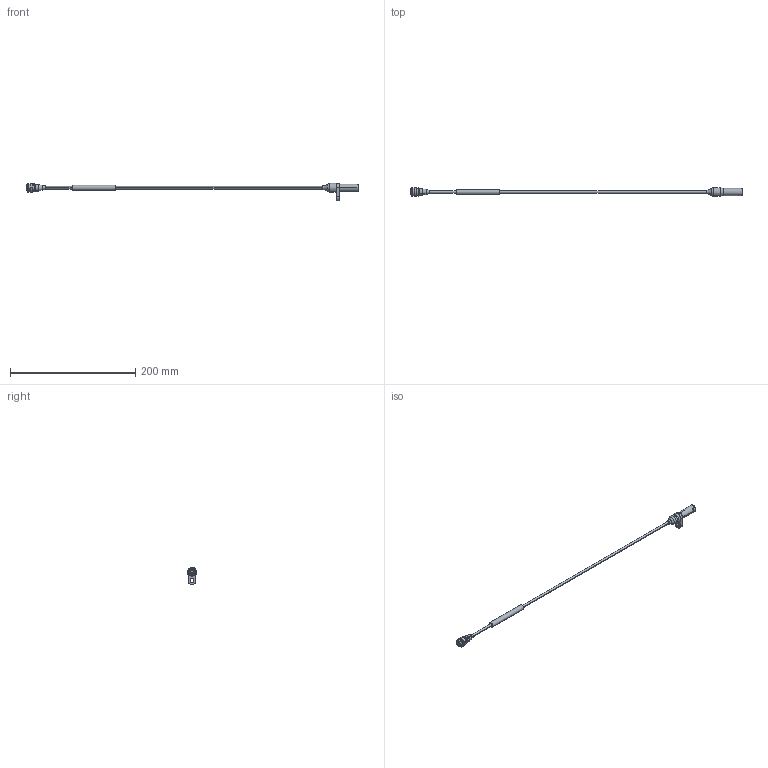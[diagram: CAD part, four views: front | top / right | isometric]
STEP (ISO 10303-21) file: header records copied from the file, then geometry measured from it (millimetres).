
FILE_DESCRIPTION(('CATIA V5 STEP Exchange'),'2;1');
FILE_NAME('\\bosch.com\dfsrb\DfsDE\DIV\BEG\MSD\Entwicklungsprojekte\Sensorik\03_Hardware\03_Sensoren\Datenbank\Speed_Sensors\F 02U V01 803-01\Mechanik\STP\F_02U_V01_803-01_DG23i_90grad.stp','2013-11-27T14:34:49+00:00',('none'),('none'),'CATIA Version 5 Release 19 SP 9 (IN-10)','CATIA V5 STEP AP214','none');
FILE_SCHEMA(('AUTOMOTIVE_DESIGN { 1 0 10303 214 1 1 1 1 }'));
Length unit declared in the file: millimetre
Products named in the file (8): F_02U_V01_803-01_DG23i_90grad; F02U_003_431-01_Gehaeuse_DG23i; F02U_003_432-01_Fuehrungshuelse_Sensorhalter; Drehzahlsensor_DG23i; ASL 6-06-05PC-HE; Kabel_L500; Formteil_204W221-25; Formteil_Sensor
Assembly tree (7 placements, depth 2):
  F_02U_V01_803-01_DG23i_90grad
    F02U_003_431-01_Gehaeuse_DG23i
    F02U_003_432-01_Fuehrungshuelse_Sensorhalter
    Drehzahlsensor_DG23i
    ASL 6-06-05PC-HE
    Kabel_L500
    Formteil_204W221-25
    Formteil_Sensor
Bounding box: 530 x 14.59 x 28.5 mm (x, y, z)
Volume: 16410.1 mm3; surface area: 18876.8 mm2
Topology: 15 solids, 15 shells, 1037 faces, 2683 edges, 1631 vertices
Faces by surface type: plane 410, cylinder 373, sphere 76, torus 68, bspline 68, cone 40, revolution 2
Entity records: 37519 total; most frequent: CARTESIAN_POINT 8641, ORIENTED_EDGE 5212, DIRECTION 3891, EDGE_CURVE 2606, AXIS2_PLACEMENT_3D 1669, VERTEX_POINT 1631, VECTOR 1347, LINE 1347
